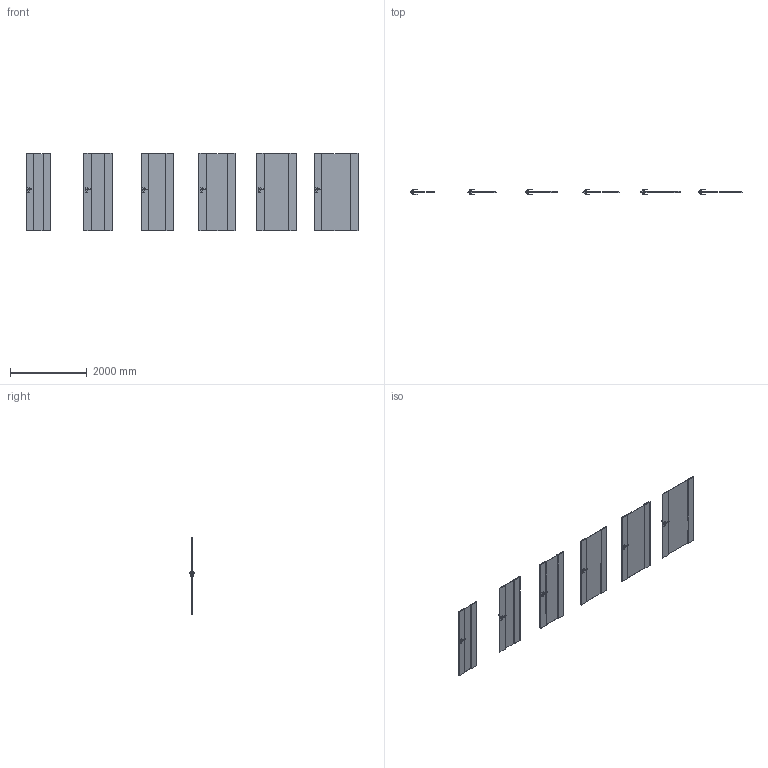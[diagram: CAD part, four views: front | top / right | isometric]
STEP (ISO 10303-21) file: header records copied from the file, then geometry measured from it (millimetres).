
FILE_DESCRIPTION(/* description */ (''),/* implementation_level */ '2;1');
FILE_NAME(/* name */ '049643_A_2-Skrzydło FOCUS model 4.B_ polska norma _PN__ przylgowe..stp',/* time_stamp */ '2024-01-29T13:46:08+01:00',/* author */ (''),/* organization */ (''),/* preprocessor_version */ 'ST-DEVELOPER v16',/* originating_system */ 'SIEMENS PLM Software NX 11.0',/* authorisation */ '');
FILE_SCHEMA (('AUTOMOTIVE_DESIGN { 1 0 10303 214 3 1 1 1 }'));
Length unit declared in the file: millimetre
Products named in the file (1): bkni4130BF060unz
Bounding box: 8644 x 153.27 x 2030 mm (x, y, z)
Volume: 230887521.9 mm3; surface area: 23970379.8 mm2
Topology: 30 solids, 30 shells, 1164 faces, 2748 edges, 1536 vertices
Faces by surface type: plane 540, cylinder 264, bspline 192, sphere 168
Entity records: 38596 total; most frequent: CARTESIAN_POINT 13705, ORIENTED_EDGE 5160, DIRECTION 4886, EDGE_CURVE 2580, AXIS2_PLACEMENT_3D 1693, VERTEX_POINT 1536, LINE 1500, VECTOR 1500
